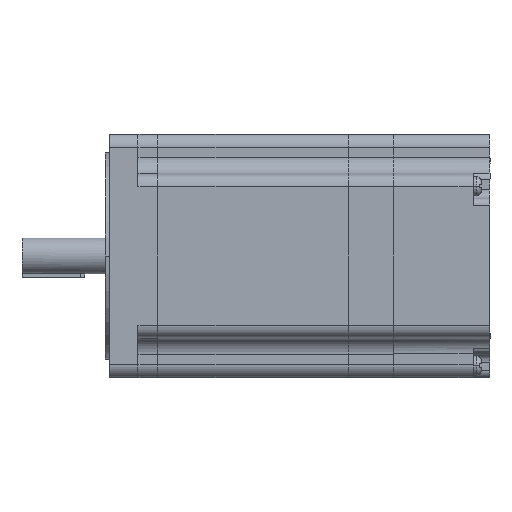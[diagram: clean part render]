
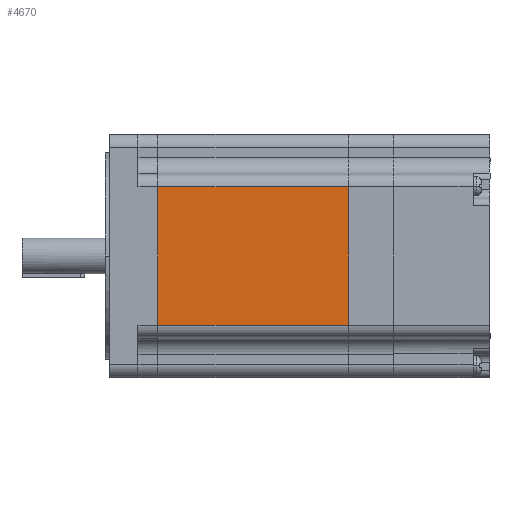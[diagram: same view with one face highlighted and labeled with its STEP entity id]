
A CAD part, left-side view. The second image highlights one B-rep face of the part: STEP entity #4670.
In plain terms, the highlighted planar face has unit normal (-1, 0, 0).
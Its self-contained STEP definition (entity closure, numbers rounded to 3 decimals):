
#3907=DIRECTION('',(0.,0.,1.));
#3908=VECTOR('',#3907,48.94);
#3909=CARTESIAN_POINT('',(-43.,0.,-24.47));
#3910=LINE('',#3909,#3908);
#4110=DIRECTION('',(0.,1.,0.));
#4111=VECTOR('',#4110,67.5);
#4112=CARTESIAN_POINT('',(-43.,0.,24.47));
#4113=LINE('',#4112,#4111);
#4118=DIRECTION('',(0.,0.,1.));
#4119=VECTOR('',#4118,48.94);
#4120=CARTESIAN_POINT('',(-43.,67.5,-24.47));
#4121=LINE('',#4120,#4119);
#4126=DIRECTION('',(0.,-1.,0.));
#4127=VECTOR('',#4126,67.5);
#4128=CARTESIAN_POINT('',(-43.,67.5,-24.47));
#4129=LINE('',#4128,#4127);
#4234=CARTESIAN_POINT('',(-43.,0.,-24.47));
#4235=VERTEX_POINT('',#4234);
#4236=CARTESIAN_POINT('',(-43.,0.,24.47));
#4237=VERTEX_POINT('',#4236);
#4314=CARTESIAN_POINT('',(-43.,67.5,24.47));
#4315=VERTEX_POINT('',#4314);
#4316=CARTESIAN_POINT('',(-43.,67.5,-24.47));
#4317=VERTEX_POINT('',#4316);
#4657=CARTESIAN_POINT('',(-43.,0.,-28.97));
#4658=DIRECTION('',(-1.,0.,0.));
#4659=DIRECTION('',(0.,0.,1.));
#4660=AXIS2_PLACEMENT_3D('',#4657,#4658,#4659);
#4661=PLANE('',#4660);
#4663=ORIENTED_EDGE('',*,*,#4662,.F.);
#4665=ORIENTED_EDGE('',*,*,#4664,.T.);
#4666=ORIENTED_EDGE('',*,*,#4649,.F.);
#4667=ORIENTED_EDGE('',*,*,#4343,.F.);
#4668=EDGE_LOOP('',(#4663,#4665,#4666,#4667));
#4669=FACE_OUTER_BOUND('',#4668,.F.);
#4670=ADVANCED_FACE('',(#4669),#4661,.T.);
#4343=EDGE_CURVE('',#4235,#4237,#3910,.T.);
#4649=EDGE_CURVE('',#4237,#4315,#4113,.T.);
#4662=EDGE_CURVE('',#4317,#4235,#4129,.T.);
#4664=EDGE_CURVE('',#4317,#4315,#4121,.T.);
